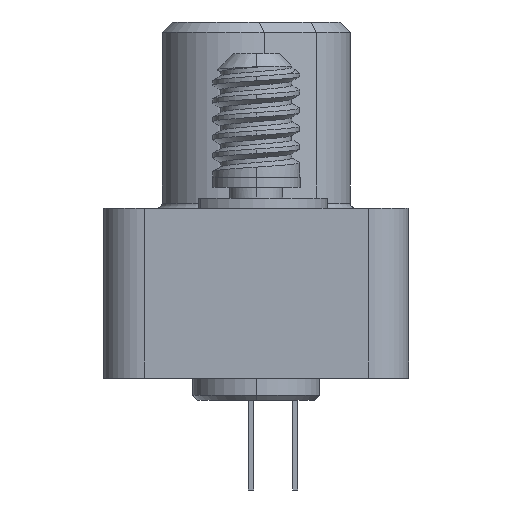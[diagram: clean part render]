
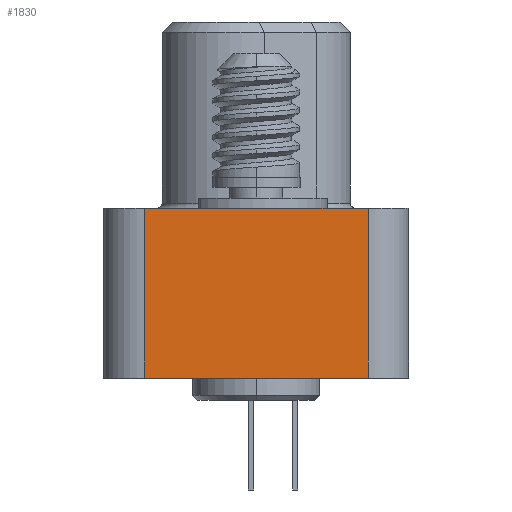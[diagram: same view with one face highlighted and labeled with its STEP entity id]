
A CAD part, left-side view. The second image highlights one B-rep face of the part: STEP entity #1830.
In plain terms, the highlighted planar face has unit normal (-1, 0, 0).
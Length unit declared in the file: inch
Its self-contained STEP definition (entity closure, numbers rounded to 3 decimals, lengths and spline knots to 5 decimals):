
#32 = CARTESIAN_POINT ( 'NONE',  ( -0.5875, -0.11, 0.042 ) ) ;
#551 = DIRECTION ( 'NONE',  ( 0., -1., 0. ) ) ;
#813 = AXIS2_PLACEMENT_3D ( 'NONE', #22281, #21101, #10319 ) ;
#1492 = VECTOR ( 'NONE', #9159, 39.37008 ) ;
#1527 = DIRECTION ( 'NONE',  ( 0., 1., 0. ) ) ;
#1720 = EDGE_CURVE ( 'NONE', #22108, #16054, #1778, .T. ) ;
#1778 = LINE ( 'NONE', #14304, #10474 ) ;
#1830 = ADVANCED_FACE ( 'NONE', ( #13431 ), #22022, .F. ) ;
#1993 = EDGE_CURVE ( 'NONE', #22108, #15276, #19888, .T. ) ;
#3265 = ORIENTED_EDGE ( 'NONE', *, *, #1720, .F. ) ;
#5113 = VECTOR ( 'NONE', #1527, 39.37008 ) ;
#7669 = EDGE_CURVE ( 'NONE', #14852, #15276, #18384, .T. ) ;
#9159 = DIRECTION ( 'NONE',  ( 0., 0., -1. ) ) ;
#9810 = EDGE_CURVE ( 'NONE', #16054, #14852, #19461, .T. ) ;
#10319 = DIRECTION ( 'NONE',  ( 0., 0., 1. ) ) ;
#10474 = VECTOR ( 'NONE', #551, 39.37008 ) ;
#10927 = ORIENTED_EDGE ( 'NONE', *, *, #1993, .T. ) ;
#10944 = ORIENTED_EDGE ( 'NONE', *, *, #7669, .F. ) ;
#11899 = CARTESIAN_POINT ( 'NONE',  ( -0.5875, -0.11, -0.125 ) ) ;
#12037 = ORIENTED_EDGE ( 'NONE', *, *, #9810, .F. ) ;
#12149 = DIRECTION ( 'NONE',  ( 0., 0., -1. ) ) ;
#12684 = CARTESIAN_POINT ( 'NONE',  ( -0.5875, -0.11, 0.042 ) ) ;
#13431 = FACE_OUTER_BOUND ( 'NONE', #18327, .T. ) ;
#14070 = CARTESIAN_POINT ( 'NONE',  ( -0.5875, 0.11, -0.125 ) ) ;
#14304 = CARTESIAN_POINT ( 'NONE',  ( -0.5875, 0.11, 0.042 ) ) ;
#14515 = CARTESIAN_POINT ( 'NONE',  ( -0.5875, 0.11, 0.042 ) ) ;
#14852 = VERTEX_POINT ( 'NONE', #15609 ) ;
#14923 = VECTOR ( 'NONE', #12149, 39.37008 ) ;
#15276 = VERTEX_POINT ( 'NONE', #14070 ) ;
#15609 = CARTESIAN_POINT ( 'NONE',  ( -0.5875, -0.11, -0.125 ) ) ;
#16054 = VERTEX_POINT ( 'NONE', #12684 ) ;
#16205 = CARTESIAN_POINT ( 'NONE',  ( -0.5875, 0.11, 0.042 ) ) ;
#18327 = EDGE_LOOP ( 'NONE', ( #10927, #10944, #12037, #3265 ) ) ;
#18384 = LINE ( 'NONE', #11899, #5113 ) ;
#19461 = LINE ( 'NONE', #32, #14923 ) ;
#19888 = LINE ( 'NONE', #14515, #1492 ) ;
#21101 = DIRECTION ( 'NONE',  ( 1., 0., 0. ) ) ;
#22022 = PLANE ( 'NONE',  #813 ) ;
#22108 = VERTEX_POINT ( 'NONE', #16205 ) ;
#22281 = CARTESIAN_POINT ( 'NONE',  ( -0.5875, 0.11, 0.042 ) ) ;
